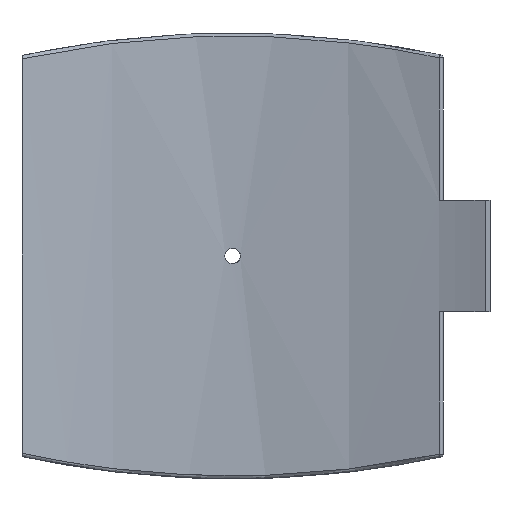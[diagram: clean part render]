
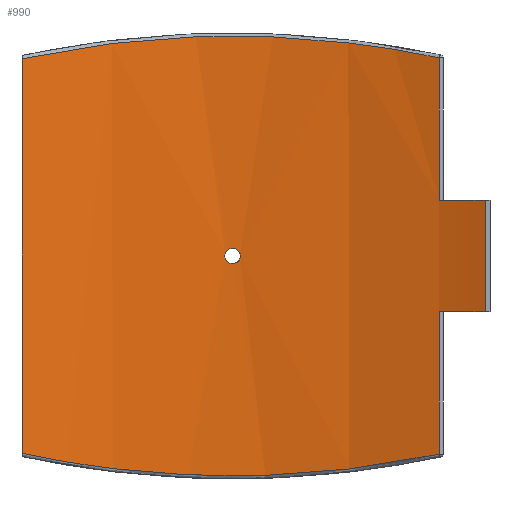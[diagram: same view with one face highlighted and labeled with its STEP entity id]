
A CAD part, front view. The second image highlights one B-rep face of the part: STEP entity #990.
In plain terms, the highlighted cylindrical face has radius 400 mm (diameter 800 mm), a partial arc.
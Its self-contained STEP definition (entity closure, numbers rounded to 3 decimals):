
#55=FACE_BOUND('',#331,.T.);
#101=B_SPLINE_CURVE_WITH_KNOTS('',3,(#2015,#2016,#2017,#2018,#2019,#2020,
#2021),.UNSPECIFIED.,.F.,.F.,(4,1,1,1,4),(-32.756,-24.46,
-16.165,-7.869,-3.721),.UNSPECIFIED.);
#102=B_SPLINE_CURVE_WITH_KNOTS('',3,(#2030,#2031,#2032,#2033,#2034,#2035,
#2036,#2037),.UNSPECIFIED.,.F.,.F.,(4,1,1,1,1,4),(-29.756,-21.461,
-13.165,-9.017,-4.869,-0.721),
 .UNSPECIFIED.);
#103=B_SPLINE_CURVE_WITH_KNOTS('',3,(#2040,#2041,#2042,#2043,#2044,#2045,
#2046,#2047,#2048,#2049),.UNSPECIFIED.,.F.,.F.,(4,2,2,2,4),(0.,0.196,
0.392,0.588,0.784),.UNSPECIFIED.);
#104=B_SPLINE_CURVE_WITH_KNOTS('',3,(#2050,#2051,#2052,#2053,#2054,#2055,
#2056,#2057,#2058,#2059,#2060,#2061,#2062,#2063,#2064,#2065,#2066,#2067,
#2068,#2069,#2070,#2071,#2072,#2073,#2074,#2075),.UNSPECIFIED.,.F.,.F.,
(4,2,2,2,2,2,2,2,2,2,2,2,4),(0.784,0.979,1.175,
1.371,1.567,1.763,1.959,2.155,
2.351,2.546,2.742,2.938,3.134),
 .UNSPECIFIED.);
#125=LINE('',#1483,#172);
#136=LINE('',#1747,#183);
#143=LINE('',#2026,#190);
#144=LINE('',#2029,#191);
#172=VECTOR('',#1188,10.);
#183=VECTOR('',#1227,10.);
#190=VECTOR('',#1264,10.);
#191=VECTOR('',#1267,10.);
#228=CYLINDRICAL_SURFACE('',#1083,400.);
#268=FACE_OUTER_BOUND('',#330,.T.);
#330=EDGE_LOOP('',(#775,#776,#777,#778,#779,#780,#781,#782));
#331=EDGE_LOOP('',(#783,#784));
#413=CIRCLE('',#1084,400.);
#414=CIRCLE('',#1085,400.);
#466=VERTEX_POINT('',#1474);
#469=VERTEX_POINT('',#1481);
#489=VERTEX_POINT('',#1740);
#492=VERTEX_POINT('',#1745);
#505=VERTEX_POINT('',#2004);
#506=VERTEX_POINT('',#2023);
#507=VERTEX_POINT('',#2025);
#508=VERTEX_POINT('',#2028);
#509=VERTEX_POINT('',#2038);
#510=VERTEX_POINT('',#2039);
#561=EDGE_CURVE('',#469,#466,#125,.T.);
#591=EDGE_CURVE('',#492,#489,#136,.T.);
#614=EDGE_CURVE('',#505,#492,#101,.T.);
#615=EDGE_CURVE('',#506,#469,#413,.T.);
#616=EDGE_CURVE('',#506,#507,#143,.T.);
#617=EDGE_CURVE('',#489,#507,#414,.T.);
#618=EDGE_CURVE('',#508,#505,#144,.T.);
#619=EDGE_CURVE('',#466,#508,#102,.T.);
#620=EDGE_CURVE('',#509,#510,#103,.T.);
#621=EDGE_CURVE('',#510,#509,#104,.T.);
#775=ORIENTED_EDGE('',*,*,#615,.F.);
#776=ORIENTED_EDGE('',*,*,#616,.T.);
#777=ORIENTED_EDGE('',*,*,#617,.F.);
#778=ORIENTED_EDGE('',*,*,#591,.F.);
#779=ORIENTED_EDGE('',*,*,#614,.F.);
#780=ORIENTED_EDGE('',*,*,#618,.F.);
#781=ORIENTED_EDGE('',*,*,#619,.F.);
#782=ORIENTED_EDGE('',*,*,#561,.F.);
#783=ORIENTED_EDGE('',*,*,#620,.T.);
#784=ORIENTED_EDGE('',*,*,#621,.T.);
#990=ADVANCED_FACE('',(#268,#55),#228,.F.);
#1083=AXIS2_PLACEMENT_3D('',#2022,#1260,#1261);
#1084=AXIS2_PLACEMENT_3D('',#2024,#1262,#1263);
#1085=AXIS2_PLACEMENT_3D('',#2027,#1265,#1266);
#1188=DIRECTION('',(0.,0.,-1.));
#1227=DIRECTION('',(0.,0.,-1.));
#1260=DIRECTION('center_axis',(0.,0.,1.));
#1261=DIRECTION('ref_axis',(-1.,0.,0.));
#1262=DIRECTION('center_axis',(0.,0.,1.));
#1263=DIRECTION('ref_axis',(-0.425,-0.905,0.));
#1264=DIRECTION('',(0.,0.,1.));
#1265=DIRECTION('center_axis',(0.,0.,-1.));
#1266=DIRECTION('ref_axis',(-0.425,-0.905,0.));
#1267=DIRECTION('',(0.,0.,1.));
#1474=CARTESIAN_POINT('',(139.055,375.052,-133.381));
#1481=CARTESIAN_POINT('',(139.055,375.052,-37.5));
#1483=CARTESIAN_POINT('',(139.055,375.052,0.));
#1740=CARTESIAN_POINT('',(139.055,375.052,37.5));
#1745=CARTESIAN_POINT('',(139.055,375.052,133.381));
#1747=CARTESIAN_POINT('',(139.055,375.052,0.));
#2004=CARTESIAN_POINT('',(-141.75,374.041,132.802));
#2015=CARTESIAN_POINT('Ctrl Pts',(-141.75,374.041,132.802));
#2016=CARTESIAN_POINT('Ctrl Pts',(-116.53,383.599,138.272));
#2017=CARTESIAN_POINT('Ctrl Pts',(-63.637,397.78,146.655));
#2018=CARTESIAN_POINT('Ctrl Pts',(19.35,402.402,149.446));
#2019=CARTESIAN_POINT('Ctrl Pts',(87.56,391.965,143.184));
#2020=CARTESIAN_POINT('Ctrl Pts',(126.401,379.743,136.071));
#2021=CARTESIAN_POINT('Ctrl Pts',(139.055,375.052,133.381));
#2022=CARTESIAN_POINT('Origin',(0.,0.,0.));
#2023=CARTESIAN_POINT('',(169.938,362.107,-37.5));
#2024=CARTESIAN_POINT('Origin',(0.,0.,
-37.5));
#2025=CARTESIAN_POINT('',(169.938,362.107,37.5));
#2026=CARTESIAN_POINT('',(169.938,362.107,0.));
#2027=CARTESIAN_POINT('Origin',(0.,0.,
37.5));
#2028=CARTESIAN_POINT('',(-141.75,374.041,-132.802));
#2029=CARTESIAN_POINT('',(-141.75,374.041,0.));
#2030=CARTESIAN_POINT('Ctrl Pts',(139.055,375.052,-133.381));
#2031=CARTESIAN_POINT('Ctrl Pts',(113.746,384.435,-138.761));
#2032=CARTESIAN_POINT('Ctrl Pts',(60.72,398.239,-146.932));
#2033=CARTESIAN_POINT('Ctrl Pts',(-8.469,401.577,-148.947));
#2034=CARTESIAN_POINT('Ctrl Pts',(-63.175,395.69,-145.423));
#2035=CARTESIAN_POINT('Ctrl Pts',(-103.319,387.148,-140.374));
#2036=CARTESIAN_POINT('Ctrl Pts',(-129.14,378.82,-135.537));
#2037=CARTESIAN_POINT('Ctrl Pts',(-141.75,374.041,-132.802));
#2038=CARTESIAN_POINT('',(5.2,399.966,0.));
#2039=CARTESIAN_POINT('',(0.,400.,-5.2));
#2040=CARTESIAN_POINT('Ctrl Pts',(5.2,399.966,0.));
#2041=CARTESIAN_POINT('Ctrl Pts',(5.2,399.966,-0.653));
#2042=CARTESIAN_POINT('Ctrl Pts',(5.07,399.968,-1.349));
#2043=CARTESIAN_POINT('Ctrl Pts',(4.539,399.974,-2.631));
#2044=CARTESIAN_POINT('Ctrl Pts',(4.139,399.979,-3.215));
#2045=CARTESIAN_POINT('Ctrl Pts',(3.215,399.987,-4.139));
#2046=CARTESIAN_POINT('Ctrl Pts',(2.631,399.992,-4.539));
#2047=CARTESIAN_POINT('Ctrl Pts',(1.349,399.998,-5.07));
#2048=CARTESIAN_POINT('Ctrl Pts',(0.653,400.,-5.2));
#2049=CARTESIAN_POINT('Ctrl Pts',(0.,400.,-5.2));
#2050=CARTESIAN_POINT('Ctrl Pts',(0.,400.,-5.2));
#2051=CARTESIAN_POINT('Ctrl Pts',(-0.653,400.,-5.2));
#2052=CARTESIAN_POINT('Ctrl Pts',(-1.349,399.998,-5.07));
#2053=CARTESIAN_POINT('Ctrl Pts',(-2.631,399.992,-4.539));
#2054=CARTESIAN_POINT('Ctrl Pts',(-3.215,399.987,-4.139));
#2055=CARTESIAN_POINT('Ctrl Pts',(-4.139,399.979,-3.215));
#2056=CARTESIAN_POINT('Ctrl Pts',(-4.539,399.974,-2.631));
#2057=CARTESIAN_POINT('Ctrl Pts',(-5.07,399.968,-1.349));
#2058=CARTESIAN_POINT('Ctrl Pts',(-5.2,399.966,-0.653));
#2059=CARTESIAN_POINT('Ctrl Pts',(-5.2,399.966,0.653));
#2060=CARTESIAN_POINT('Ctrl Pts',(-5.07,399.968,1.349));
#2061=CARTESIAN_POINT('Ctrl Pts',(-4.539,399.974,2.631));
#2062=CARTESIAN_POINT('Ctrl Pts',(-4.139,399.979,3.215));
#2063=CARTESIAN_POINT('Ctrl Pts',(-3.215,399.987,4.139));
#2064=CARTESIAN_POINT('Ctrl Pts',(-2.631,399.992,4.539));
#2065=CARTESIAN_POINT('Ctrl Pts',(-1.349,399.998,5.07));
#2066=CARTESIAN_POINT('Ctrl Pts',(-0.653,400.,5.2));
#2067=CARTESIAN_POINT('Ctrl Pts',(0.653,400.,5.2));
#2068=CARTESIAN_POINT('Ctrl Pts',(1.349,399.998,5.07));
#2069=CARTESIAN_POINT('Ctrl Pts',(2.631,399.992,4.539));
#2070=CARTESIAN_POINT('Ctrl Pts',(3.215,399.987,4.139));
#2071=CARTESIAN_POINT('Ctrl Pts',(4.139,399.979,3.215));
#2072=CARTESIAN_POINT('Ctrl Pts',(4.539,399.974,2.631));
#2073=CARTESIAN_POINT('Ctrl Pts',(5.07,399.968,1.349));
#2074=CARTESIAN_POINT('Ctrl Pts',(5.2,399.966,0.653));
#2075=CARTESIAN_POINT('Ctrl Pts',(5.2,399.966,0.));
